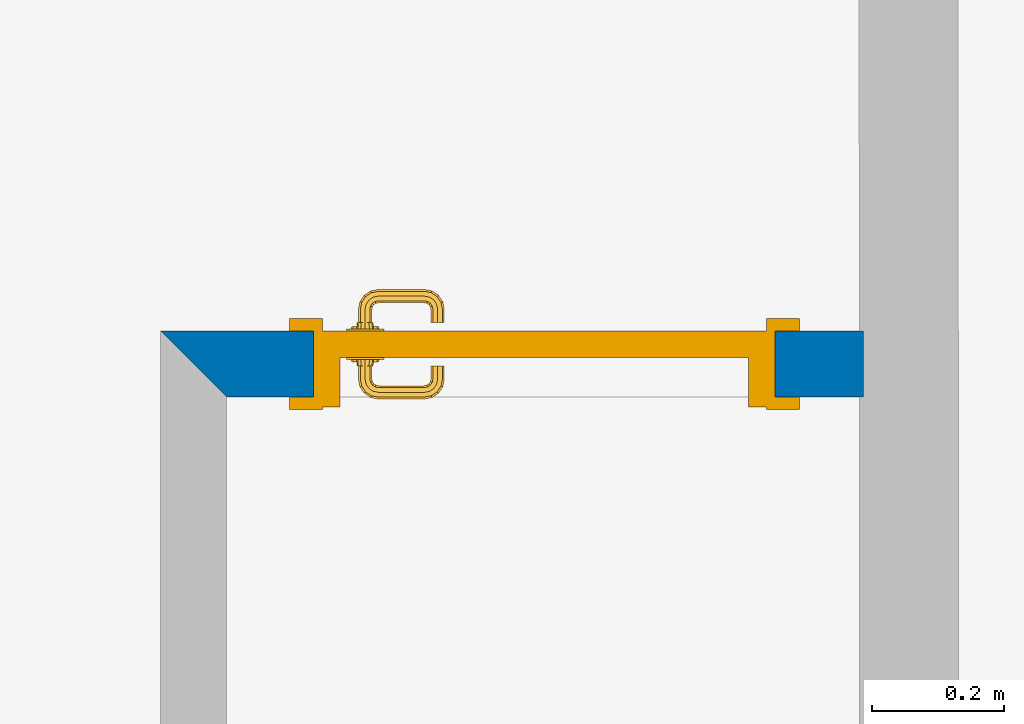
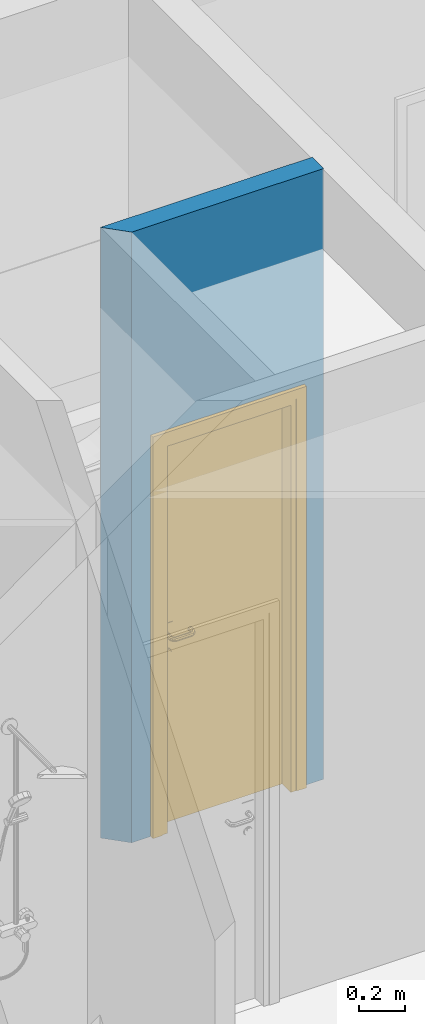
# One storey, part 24 of 194: 1 door, 1 wall, 1 opening.
"""IFC2X3 building model written with IfcOpenShell, lengths in millimetres."""

import ifcopenshell
import ifcopenshell.guid

model = None  # the IFC model being written
_history = None  # IfcOwnerHistory: only IFC2X3 demands one
_inside = {}  # id of a spatial element -> (the spatial element, [elements in it])
_under = {}  # id of a project, library or spatial element -> (it, [spatial elements below it])
_declared = {}  # id of a project -> (the project, [libraries it declares])
_typed = {}  # id of a type object -> (the type object, [elements of that type])
_made_of = {}  # id of a material, layer set ... -> (it, [elements and type objects made of it])


def new_model(schema):
    """Start an empty IFC model of exactly this schema.

    Asked for "IFC4X3", IfcOpenShell would pick the latest addendum, in which some entities
    have other attributes; the version numbers below select the first issue.
    IFC2X3 requires an IfcOwnerHistory on every rooted entity: one is made here for all.
    """
    global model, _history
    if schema == "IFC4X3":
        model = ifcopenshell.file(schema_version=(4, 3, 0, 0))
    else:
        model = ifcopenshell.file(schema=schema)
    _inside.clear()
    _under.clear()
    _declared.clear()
    _typed.clear()
    _made_of.clear()
    _history = None
    if model.schema == "IFC2X3":
        org = make("IfcOrganization", Name="unknown")
        user = make(
            "IfcPersonAndOrganization",
            ThePerson=make("IfcPerson", FamilyName="unknown"),
            TheOrganization=org,
        )
        app = make(
            "IfcApplication",
            ApplicationDeveloper=org,
            Version="unknown",
            ApplicationFullName="unknown",
            ApplicationIdentifier="unknown",
        )
        _history = make(
            "IfcOwnerHistory",
            OwningUser=user,
            OwningApplication=app,
            ChangeAction="ADDED",
            CreationDate=0,
        )
    return model


def make(cls, **values):
    """One entity of the class cls with the attributes given. An attribute that is None is left unset."""
    return model.create_entity(
        cls, **{name: value for name, value in values.items() if value is not None}
    )


def entity(cls, *values):
    """Any entity or typed value of the class cls, its attributes in the order of the schema. None: left unset."""
    e = model.create_entity(cls)
    for i, value in enumerate(values):
        if value is not None:
            e[i] = value
    return e


def rooted(cls, **values):
    """An entity with a GlobalId (a new one), such as an element, a storey or a relation."""
    return make(cls, GlobalId=ifcopenshell.guid.new(), OwnerHistory=_history, **values)


def si_unit(unit_type, name, prefix=None):
    """IfcSIUnit, for example si_unit("LENGTHUNIT", "METRE", prefix="MILLI")."""
    return make("IfcSIUnit", UnitType=unit_type, Prefix=prefix, Name=name)


def converted_unit(unit_type, name, factor, base, dimensions=None, offset=None):
    """IfcConversionBasedUnit, such as the inch: factor (a typed value) times the base unit."""
    return make(
        "IfcConversionBasedUnit"
        if offset is None
        else "IfcConversionBasedUnitWithOffset",
        ConversionOffset=offset,
        Dimensions=None
        if dimensions is None
        else entity("IfcDimensionalExponents", *dimensions),
        UnitType=unit_type,
        Name=name,
        ConversionFactor=make(
            "IfcMeasureWithUnit", ValueComponent=factor, UnitComponent=base
        ),
    )


def derived_unit(unit_type, elements):
    """IfcDerivedUnit: a product of units, each with its exponent."""
    return make(
        "IfcDerivedUnit",
        Elements=[
            make("IfcDerivedUnitElement", Unit=unit, Exponent=power)
            for unit, power in elements
        ],
        UnitType=unit_type,
    )


def money_unit(currency):
    """IfcMonetaryUnit."""
    return make("IfcMonetaryUnit", Currency=currency)


def assignment(units):
    """IfcUnitAssignment: the units of a project."""
    return None if units is None else make("IfcUnitAssignment", Units=units)


def point(xyz):
    """IfcCartesianPoint."""
    return None if xyz is None else make("IfcCartesianPoint", Coordinates=xyz)


def direction(xyz):
    """IfcDirection."""
    return None if xyz is None else make("IfcDirection", DirectionRatios=xyz)


def frame(location, z_axis=None, x_axis=None):
    """IfcAxis2Placement3D, a coordinate frame: its origin and axes. An axis left out is left unset."""
    return make(
        "IfcAxis2Placement3D",
        Location=point(location),
        Axis=direction(z_axis),
        RefDirection=direction(x_axis),
    )


def frame_2d(location, x_axis=None):
    """IfcAxis2Placement2D, a coordinate frame in the plane: its origin and x axis."""
    return make(
        "IfcAxis2Placement2D", Location=point(location), RefDirection=direction(x_axis)
    )


def origin_with_axes():
    """The frame at (0, 0, 0) with the z axis (0, 0, 1) and the x axis (1, 0, 0) written out."""
    return frame((0.0, 0.0, 0.0), z_axis=(0.0, 0.0, 1.0), x_axis=(1.0, 0.0, 0.0))


def origin_2d_with_axis():
    """The frame at (0, 0) in the plane with the x axis (1, 0) written out."""
    return frame_2d((0.0, 0.0), x_axis=(1.0, 0.0))


def place(relative_to, where):
    """IfcLocalPlacement: puts the frame where relative to a parent placement (None: the world)."""
    return make(
        "IfcLocalPlacement", PlacementRelTo=relative_to, RelativePlacement=where
    )


def context(
    kind, dimensions, precision=None, world=None, true_north=None, identifier=None
):
    """IfcGeometricRepresentationContext, for example the 3D "Model" context."""
    return make(
        "IfcGeometricRepresentationContext",
        ContextIdentifier=identifier,
        ContextType=kind,
        CoordinateSpaceDimension=dimensions,
        Precision=precision,
        WorldCoordinateSystem=world,
        TrueNorth=true_north,
    )


def subcontext(parent, identifier, kind, view, scale=None):
    """IfcGeometricRepresentationSubContext, for example "Body" below "Model"."""
    return make(
        "IfcGeometricRepresentationSubContext",
        ContextIdentifier=identifier,
        ContextType=kind,
        ParentContext=parent,
        TargetScale=scale,
        TargetView=view,
    )


def project(units=None, contexts=None):
    """IfcProject with its units and contexts."""
    return rooted(
        "IfcProject",
        Name="project",
        RepresentationContexts=contexts,
        UnitsInContext=assignment(units),
    )


def spatial(cls, under=None, at=None, **own):
    """A site, building, storey or space (cls), placed at a placement, below another one or the project."""
    s = rooted(cls, ObjectPlacement=at, **own)
    if under is not None:
        _under.setdefault(under.id(), (under, []))[1].append(s)
    return s


def polyline(points):
    """IfcPolyline through the points."""
    return make("IfcPolyline", Points=[point(p) for p in points])


def profile(cls, at=None, kind="AREA", **sizes):
    """A parametric profile (cls). Its sizes go by their IFC names, for example OverallWidth=200.0."""
    return make(cls, ProfileType=kind, Position=at, **sizes)


def rectangle(**sizes):
    """IfcRectangleProfileDef."""
    return profile("IfcRectangleProfileDef", **sizes)


def outline(outer, holes=None, kind="AREA"):
    """IfcArbitraryClosedProfileDef: a profile drawn as a closed curve; with holes, ...WithVoids."""
    if holes is None:
        return make("IfcArbitraryClosedProfileDef", ProfileType=kind, OuterCurve=outer)
    return make(
        "IfcArbitraryProfileDefWithVoids",
        ProfileType=kind,
        OuterCurve=outer,
        InnerCurves=holes,
    )


def extrude(swept, where, along, depth):
    """IfcExtrudedAreaSolid: the profile swept, set in the frame where, extruded along a direction by depth."""
    return make(
        "IfcExtrudedAreaSolid",
        SweptArea=swept,
        Position=where,
        ExtrudedDirection=direction(along),
        Depth=depth,
    )


def faces_of(points, faces, orient=None, outer=None):
    """IfcFace entities. A face is a list of loops; a loop is a list of indices into points, from 0.

    orient and outer hold one flag for each loop. By default every Orientation is true, the
    first loop of a face is its IfcFaceOuterBound and the others are IfcFaceBound.
    """
    made = []
    for i, loops in enumerate(faces):
        bounds = []
        for j, loop in enumerate(loops):
            is_outer = j == 0 if outer is None else outer[i][j]
            bounds.append(
                make(
                    "IfcFaceOuterBound" if is_outer else "IfcFaceBound",
                    Bound=make("IfcPolyLoop", Polygon=[points[k] for k in loop]),
                    Orientation=True if orient is None else orient[i][j],
                )
            )
        made.append(make("IfcFace", Bounds=bounds))
    return made


def open_shell(faces, orient=None, outer=None):
    """The faces of one IfcOpenShell. surface_model builds it on its shared points."""
    return ("IfcOpenShell", faces, orient, outer)


def faceted_brep(points, faces, orient=None, outer=None, voids=None):
    """IfcFacetedBrep: a solid bounded by flat faces; with voids (closed shells), ...WithVoids."""
    shared = [point(p) for p in points]
    hull = make("IfcClosedShell", CfsFaces=faces_of(shared, faces, orient, outer))
    if voids is None:
        return make("IfcFacetedBrep", Outer=hull)
    return make(
        "IfcFacetedBrepWithVoids",
        Outer=hull,
        Voids=[
            make(cls, CfsFaces=faces_of(shared, fs, o, b)) for cls, fs, o, b in voids
        ],
    )


def surface_model(cls, points, shells):
    """IfcFaceBasedSurfaceModel or IfcShellBasedSurfaceModel (cls): surfaces that need not close."""
    shared = [point(p) for p in points]
    made = [make(c, CfsFaces=faces_of(shared, fs, o, b)) for c, fs, o, b in shells]
    if cls == "IfcFaceBasedSurfaceModel":
        return make(cls, FbsmFaces=made)
    return make(cls, SbsmBoundary=made)


def shape(context_of_items, identifier, shape_type, items):
    """IfcShapeRepresentation: the items that make up one representation, for example the "Body"."""
    return make(
        "IfcShapeRepresentation",
        ContextOfItems=context_of_items,
        RepresentationIdentifier=identifier,
        RepresentationType=shape_type,
        Items=items,
    )


def source(mapping_origin, context_of_items, identifier, shape_type, items):
    """IfcRepresentationMap: a shape defined once, which mapped items show again and again."""
    return make(
        "IfcRepresentationMap",
        MappingOrigin=mapping_origin,
        MappedRepresentation=shape(context_of_items, identifier, shape_type, items),
    )


def transform(
    local_origin,
    x_axis=None,
    y_axis=None,
    z_axis=None,
    scale=None,
    scale2=None,
    scale3=None,
    uniform=True,
):
    """IfcCartesianTransformationOperator3D, or its non-uniform kind. x_axis, y_axis, z_axis: its Axis1, 2, 3."""
    if uniform:
        return make(
            "IfcCartesianTransformationOperator3D",
            Axis1=direction(x_axis),
            Axis2=direction(y_axis),
            LocalOrigin=point(local_origin),
            Scale=scale,
            Axis3=direction(z_axis),
        )
    return make(
        "IfcCartesianTransformationOperator3DnonUniform",
        Axis1=direction(x_axis),
        Axis2=direction(y_axis),
        LocalOrigin=point(local_origin),
        Scale=scale,
        Axis3=direction(z_axis),
        Scale2=scale2,
        Scale3=scale3,
    )


def mapped(mapping_source, mapping_target):
    """IfcMappedItem: shows the shape of a source again, moved by a transform."""
    return make(
        "IfcMappedItem", MappingSource=mapping_source, MappingTarget=mapping_target
    )


def material(Name=None, Category=None):
    """IfcMaterial."""
    return make("IfcMaterial", Name=Name, Category=Category)


def layer(
    of_material, thickness, ventilated=None, Name=None, Category=None, Priority=None
):
    """IfcMaterialLayer: one layer of a wall or slab, of a material (None: an air gap)."""
    return make(
        "IfcMaterialLayer",
        Material=of_material,
        LayerThickness=thickness,
        IsVentilated=ventilated,
        Name=Name,
        Category=Category,
        Priority=Priority,
    )


def layer_set(layers, Name=None):
    """IfcMaterialLayerSet."""
    return make("IfcMaterialLayerSet", MaterialLayers=layers, LayerSetName=Name)


def layer_usage(for_layer_set, set_direction, sense, offset, extent=None):
    """IfcMaterialLayerSetUsage: how a layer set lies in its element."""
    return make(
        "IfcMaterialLayerSetUsage",
        ForLayerSet=for_layer_set,
        LayerSetDirection=set_direction,
        DirectionSense=sense,
        OffsetFromReferenceLine=offset,
        ReferenceExtent=extent,
    )


def made_of(thing, what):
    """Note that an element or type object is made of a material, layer set ...; save() writes the relation."""
    if what is not None:
        _made_of.setdefault(what.id(), (what, []))[1].append(thing)
    return thing


def type_object(cls, material=None, **own):
    """A type object (cls), such as IfcWallType, which elements share."""
    return made_of(rooted(cls, **own), material)


def element(
    cls,
    number,
    at=None,
    inside=None,
    cuts=None,
    type_object=None,
    material=None,
    context=None,
    identifier="Body",
    shape_type=None,
    held_by="IfcProductDefinitionShape",
    body=None,
    shapes=None,
    **own,
):
    """One element of the class cls, such as IfcWall. Its Tag is "e" and its number.

    at: its placement. inside: the storey or other place that contains it. cuts: it is an
    opening in that element (IfcRelVoidsElement). A single representation is given by context,
    identifier, shape_type and body (its items); several are given by shapes. held_by: the class
    of the entity that holds the representations. save() writes the other relations.
    """
    e = rooted(cls, Tag="e%d" % number, ObjectPlacement=at, **own)
    if body is not None:
        shapes = [shape(context, identifier, shape_type, body)]
    if shapes is not None:
        e.Representation = make(held_by, Representations=shapes)
    if inside is not None:
        _inside.setdefault(inside.id(), (inside, []))[1].append(e)
    if cuts is not None:
        rooted(
            "IfcRelVoidsElement", RelatingBuildingElement=cuts, RelatedOpeningElement=e
        )
    if type_object is not None:
        _typed.setdefault(type_object.id(), (type_object, []))[1].append(e)
    return made_of(e, material)


def fill(opening, filler):
    """IfcRelFillsElement: the door or window that sits in an opening."""
    return rooted(
        "IfcRelFillsElement",
        RelatingOpeningElement=opening,
        RelatedBuildingElement=filler,
    )


def aggregate(whole, parts):
    """IfcRelAggregates: a whole, such as a stair, and the parts it consists of."""
    return rooted("IfcRelAggregates", RelatingObject=whole, RelatedObjects=parts)


def save(model, path):
    """Write the relations noted so far, then the file.

    IfcRelAggregates (storeys below a building ...), IfcRelContainedInSpatialStructure (elements
    in a storey), IfcRelDefinesByType, IfcRelAssociatesMaterial and IfcRelDeclares: one each for
    every whole, place, type object, material and project.
    """
    for whole, parts in _under.values():
        aggregate(whole, parts)
    for where, things in _inside.values():
        rooted(
            "IfcRelContainedInSpatialStructure",
            RelatedElements=things,
            RelatingStructure=where,
        )
    for kind, things in _typed.values():
        rooted("IfcRelDefinesByType", RelatedObjects=things, RelatingType=kind)
    for what, things in _made_of.values():
        rooted("IfcRelAssociatesMaterial", RelatedObjects=things, RelatingMaterial=what)
    for by, libraries in _declared.values():
        rooted("IfcRelDeclares", RelatingContext=by, RelatedDefinitions=libraries)
    model.write(path)


model = new_model("IFC2X3")

# Units and contexts
model_context = context("Model", 3, precision=1e-05, world=origin_with_axes(), true_north=direction((0.0, 1.0)))
body_context = subcontext(model_context, "Body", "Model", "MODEL_VIEW")
ifc_project = project(units=[si_unit("LENGTHUNIT", "METRE", prefix="MILLI"), si_unit("AREAUNIT", "SQUARE_METRE"), si_unit("VOLUMEUNIT", "CUBIC_METRE"), converted_unit("PLANEANGLEUNIT", "DEGREE", entity("IfcPlaneAngleMeasure", 0.0174532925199), si_unit("PLANEANGLEUNIT", "RADIAN"), dimensions=[0, 0, 0, 0, 0, 0, 0]), si_unit("SOLIDANGLEUNIT", "STERADIAN"), money_unit("EUR"), converted_unit("TIMEUNIT", "Year", entity("IfcTimeMeasure", 31556926.0), si_unit("TIMEUNIT", "SECOND"), dimensions=[0, 0, 1, 0, 0, 0, 0]), si_unit("MASSUNIT", "GRAM", prefix="KILO"), si_unit("THERMODYNAMICTEMPERATUREUNIT", "DEGREE_CELSIUS"), si_unit("LUMINOUSINTENSITYUNIT", "LUMEN"), si_unit("ENERGYUNIT", "JOULE", prefix="MEGA"), derived_unit("THERMALCONDUCTANCEUNIT", [(si_unit("POWERUNIT", "WATT"), 1), (si_unit("LENGTHUNIT", "METRE"), -1), (si_unit("THERMODYNAMICTEMPERATUREUNIT", "KELVIN"), -1)]), derived_unit("SPECIFICHEATCAPACITYUNIT", [(si_unit("ENERGYUNIT", "JOULE"), 1), (si_unit("MASSUNIT", "GRAM", prefix="KILO"), -1), (si_unit("THERMODYNAMICTEMPERATUREUNIT", "KELVIN"), -1)]), derived_unit("MASSDENSITYUNIT", [(si_unit("MASSUNIT", "GRAM", prefix="KILO"), 1), (si_unit("VOLUMEUNIT", "CUBIC_METRE"), -1)])], contexts=[model_context])

# Site, building, storey
site_placement = place(None, origin_with_axes())
site = spatial("IfcSite", under=ifc_project, at=site_placement, Name="Site", CompositionType="ELEMENT")
building_placement = place(site_placement, origin_with_axes())
building = spatial("IfcBuilding", under=site, at=building_placement, Name="Building", CompositionType="ELEMENT")
storey_placement = place(building_placement, frame((0.0, 0.0, 3000.0), z_axis=(0.0, 0.0, 1.0), x_axis=(1.0, 0.0, 0.0)))
storey = spatial("IfcBuildingStorey", under=building, at=storey_placement, Name="2 KORRUS", CompositionType="ELEMENT", Elevation=3000.0)

# Wall, opening, door
ifc_material = material(Name="Kivi -Ol.Olev Konstruktsioon")
ifc_layer = layer(ifc_material, 100.0, ventilated="UNKNOWN")
ifc_layer_set = layer_set([ifc_layer], Name="ol.olev ss 100")
ifc_layer_usage = layer_usage(ifc_layer_set, "AXIS2", "POSITIVE", -100.0)
wall_type = type_object("IfcWallType", Name="SW - 022", PredefinedType="NOTDEFINED")
wall_placement = place(storey_placement, frame((74943.5450099, 38994.6064083, 0.0), z_axis=(0.0, 0.0, 1.0), x_axis=(1.0, 0.0, 0.0)))
wall = element("IfcWallStandardCase", 1, at=wall_placement, inside=storey, type_object=wall_type, material=ifc_layer_usage, Name="ol.olev ss 100", context=body_context, shape_type="SweptSolid", body=[
    extrude(outline(polyline([(100.0, -100.0), (1066.53179752, -100.0), (1066.53179752, 0.0), (0.0, 0.0), (100.0, -100.0)])), origin_with_axes(), (0.0, 0.0, 1.0), 3250.0),
])
opening_placement = place(wall_placement, frame((582.395662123, 0.0, 0.0), z_axis=(0.0, 0.0, 1.0), x_axis=(1.0, 0.0, 0.0)))
opening = element("IfcOpeningElement", 2, at=opening_placement, cuts=wall, Name="Siseuks * Door 22", context=body_context, shape_type="SweptSolid", body=[
    extrude(rectangle(XDim=699.999999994, YDim=2100.0, at=origin_2d_with_axis()), frame((0.0, -100.0, 1050.0), z_axis=(0.0, 1.0, 0.0), x_axis=(1.0, 0.0, 0.0)), (0.0, 0.0, 1.0), 300.000000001),
    extrude(rectangle(XDim=773.999999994, YDim=2137.0, at=origin_2d_with_axis()), frame((0.0, -100.0, 1068.5), z_axis=(0.0, 1.0, 0.0), x_axis=(1.0, 0.0, 0.0)), (0.0, 0.0, -1.0), 100.0),
    extrude(rectangle(XDim=773.999999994, YDim=2137.0, at=origin_2d_with_axis()), frame((0.0, 0.0, 1068.5), z_axis=(0.0, -1.0, 0.0), x_axis=(1.0, 0.0, 0.0)), (0.0, 0.0, -1.0), 100.0),
])
door_style = type_object("IfcDoorStyle", Name="SU-B233B   700×2\xa0100", ConstructionType="NOTDEFINED", OperationType="SINGLE_SWING_RIGHT", ParameterTakesPrecedence=False, Sizeable=False)
shared_shape = source(origin_with_axes(), body_context, "Body", "SurfaceModel", [
    faceted_brep([(-386.999999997, -119.0, 0.0), (-386.999999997, -100.0, 0.0), (-336.999999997, -100.0, 0.0), (-336.999999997, -119.0, 0.0), (-386.999999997, -119.0, 2137.0), (-386.999999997, -100.0, 2137.0), (-336.999999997, -100.0, 2087.0), (-336.999999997, -119.0, 2087.0)], [[[0, 1, 2, 3]], [[4, 5, 1, 0]], [[1, 5, 6, 2]], [[3, 2, 6, 7]], [[0, 3, 7, 4]], [[7, 6, 5, 4]]]),
    faceted_brep([(386.999999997, -119.0, 2137.0), (386.999999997, -100.0, 2137.0), (336.999999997, -100.0, 2087.0), (336.999999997, -119.0, 2087.0), (386.999999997, -119.0, 0.0), (386.999999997, -100.0, 0.0), (336.999999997, -100.0, 0.0), (336.999999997, -119.0, 0.0)], [[[0, 1, 2, 3]], [[4, 5, 1, 0]], [[1, 5, 6, 2]], [[3, 2, 6, 7]], [[0, 3, 7, 4]], [[7, 6, 5, 4]]]),
    faceted_brep([(-386.999999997, -119.0, 2137.0), (-386.999999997, -100.0, 2137.0), (-336.999999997, -100.0, 2087.0), (-336.999999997, -119.0, 2087.0), (386.999999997, -119.0, 2137.0), (386.999999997, -100.0, 2137.0), (336.999999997, -100.0, 2087.0), (336.999999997, -119.0, 2087.0)], [[[0, 1, 2, 3]], [[4, 5, 1, 0]], [[1, 5, 6, 2]], [[3, 2, 6, 7]], [[0, 3, 7, 4]], [[7, 6, 5, 4]]]),
    faceted_brep([(-386.999999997, 19.0, 0.0), (-336.999999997, 19.0, 0.0), (-336.999999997, 0.0, 0.0), (-386.999999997, 0.0, 0.0), (-386.999999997, 19.0, 2137.0), (-336.999999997, 19.0, 2087.0), (-336.999999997, 0.0, 2087.0), (-386.999999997, 0.0, 2137.0)], [[[0, 1, 2, 3]], [[0, 4, 5, 1]], [[1, 5, 6, 2]], [[3, 2, 6, 7]], [[4, 0, 3, 7]], [[5, 4, 7, 6]]]),
    faceted_brep([(386.999999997, 19.0, 2137.0), (336.999999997, 19.0, 2087.0), (336.999999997, 0.0, 2087.0), (386.999999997, 0.0, 2137.0), (386.999999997, 19.0, 0.0), (336.999999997, 19.0, 0.0), (336.999999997, 0.0, 0.0), (386.999999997, 0.0, 0.0)], [[[0, 1, 2, 3]], [[0, 4, 5, 1]], [[1, 5, 6, 2]], [[3, 2, 6, 7]], [[4, 0, 3, 7]], [[5, 4, 7, 6]]]),
    faceted_brep([(-386.999999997, 19.0, 2137.0), (-336.999999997, 19.0, 2087.0), (-336.999999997, 0.0, 2087.0), (-386.999999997, 0.0, 2137.0), (386.999999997, 19.0, 2137.0), (336.999999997, 19.0, 2087.0), (336.999999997, 0.0, 2087.0), (386.999999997, 0.0, 2137.0)], [[[0, 1, 2, 3]], [[0, 4, 5, 1]], [[1, 5, 6, 2]], [[3, 2, 6, 7]], [[4, 0, 3, 7]], [[5, 4, 7, 6]]]),
    faceted_brep([(-309.999999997, -40.0, 0.0), (-309.999999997, -40.0, 2060.0), (-309.999999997, -115.0, 2060.0), (-309.999999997, -115.0, 0.0), (-321.999999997, -40.0, 2060.0), (-321.999999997, -40.0, 0.0), (-321.999999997, 0.0, 2060.0), (-349.999999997, 0.0, 2060.0), (-349.999999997, -115.0, 2060.0), (-349.999999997, -115.0, 0.0), (-349.999999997, 0.0, 0.0), (-321.999999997, 0.0, 0.0)], [[[0, 1, 2, 3]], [[4, 1, 0, 5]], [[4, 6, 7, 8, 2, 1]], [[3, 2, 8, 9]], [[5, 0, 3, 9, 10, 11]], [[6, 4, 5, 11]], [[6, 11, 10, 7]], [[10, 9, 8, 7]]]),
    faceted_brep([(321.999999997, -40.0, 2060.0), (309.999999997, -40.0, 2060.0), (309.999999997, -115.0, 2060.0), (349.999999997, -115.0, 2060.0), (349.999999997, 0.0, 2060.0), (321.999999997, 0.0, 2060.0), (321.999999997, -40.0, 0.0), (309.999999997, -40.0, 0.0), (309.999999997, -115.0, 0.0), (349.999999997, -115.0, 0.0), (349.999999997, 0.0, 0.0), (321.999999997, 0.0, 0.0)], [[[0, 1, 2, 3, 4, 5]], [[1, 0, 6, 7]], [[1, 7, 8, 2]], [[3, 2, 8, 9]], [[4, 3, 9, 10]], [[11, 5, 4, 10]], [[0, 5, 11, 6]], [[6, 11, 10, 9, 8, 7]]]),
    faceted_brep([(-321.999999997, 0.0, 2072.0), (-321.999999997, 0.0, 2060.0), (-349.999999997, 0.0, 2060.0), (-349.999999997, 0.0, 2100.0), (349.999999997, 0.0, 2100.0), (349.999999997, 0.0, 2060.0), (321.999999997, 0.0, 2060.0), (321.999999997, 0.0, 2072.0), (-321.999999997, -40.0, 2072.0), (-321.999999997, -40.0, 2060.0), (-309.999999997, -40.0, 2060.0), (-309.999999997, -115.0, 2060.0), (-349.999999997, -115.0, 2060.0), (-349.999999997, -115.0, 2100.0), (349.999999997, -115.0, 2100.0), (349.999999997, -115.0, 2060.0), (321.999999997, -40.0, 2060.0), (309.999999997, -115.0, 2060.0), (309.999999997, -40.0, 2060.0), (321.999999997, -40.0, 2072.0)], [[[0, 1, 2, 3, 4, 5, 6, 7]], [[1, 0, 8, 9]], [[9, 10, 11, 12, 2, 1]], [[2, 12, 13, 3]], [[3, 13, 14, 4]], [[4, 14, 15, 5]], [[16, 6, 5, 15, 17, 18]], [[7, 6, 16, 19]], [[0, 7, 19, 8]], [[16, 18, 10, 9, 8, 19]], [[10, 18, 17, 11]], [[17, 15, 14, 13, 12, 11]]]),
    faceted_brep([(-300.499999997, -40.0, 1060.0), (-300.499999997, -43.0, 1060.0), (-243.499999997, -43.0, 1060.0), (-243.499999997, -40.0, 1060.0), (-300.499999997, -40.0, 870.0), (-300.499999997, -43.0, 870.0), (-243.499999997, -43.0, 870.0), (-243.499999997, -40.0, 870.0)], [[[0, 1, 2, 3]], [[4, 5, 1, 0]], [[1, 5, 6, 2]], [[3, 2, 6, 7]], [[0, 3, 7, 4]], [[7, 6, 5, 4]]]),
    surface_model("IfcShellBasedSurfaceModel", [(-261.999999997, -53.0, 1000.0), (-261.999999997, -72.0150859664, 1000.0), (-264.928932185, -72.303560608, 992.928932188), (-264.928932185, -53.0, 992.928932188), (-264.928932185, -53.0, 1007.07106781), (-264.928932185, -72.303560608, 1007.07106781), (-261.057796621, -76.751862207, 1000.0), (-263.816790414, -77.8946748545, 992.928932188), (-271.999999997, -73.0, 990.0), (-271.999999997, -53.0, 990.0), (-271.999999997, -53.0, 1010.0), (-271.999999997, -73.0, 1010.0), (-263.816790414, -77.8946748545, 1007.07106781), (-258.932537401, -79.9325374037, 1000.0), (-261.04417983, -82.0441798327, 992.928932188), (-270.477590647, -80.6536686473, 990.0), (-279.071067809, -73.696439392, 992.928932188), (-279.071067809, -53.0, 992.928932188), (-279.071067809, -53.0, 1007.07106781), (-279.071067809, -73.696439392, 1007.07106781), (-270.477590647, -80.6536686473, 1010.0), (-261.04417983, -82.0441798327, 1007.07106781), (-255.751862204, -82.0577966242, 1000.0), (-256.894674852, -84.8167904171, 992.928932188), (-266.142135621, -87.1421356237, 990.0), (-277.13839088, -83.4126624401, 992.928932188), (-281.999999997, -73.9849140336, 1000.0), (-281.999999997, -53.0, 1000.0), (-277.13839088, -83.4126624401, 1007.07106781), (-266.142135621, -87.1421356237, 1010.0), (-256.894674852, -84.8167904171, 1007.07106781), (-251.015085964, -83.0, 1000.0), (-251.303560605, -85.9289321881, 992.928932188), (-259.653668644, -91.4775906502, 990.0), (-271.240091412, -92.2400914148, 992.928932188), (-279.897384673, -84.5554750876, 1000.0), (-271.240091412, -92.2400914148, 1007.07106781), (-259.653668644, -91.4775906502, 1010.0), (-251.303560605, -85.9289321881, 1007.07106781), (-182.984914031, -83.0, 1000.0), (-182.696439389, -85.9289321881, 992.928932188), (-251.999999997, -93.0, 990.0), (-262.412662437, -98.1383908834, 992.928932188), (-273.351733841, -94.3517338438, 1000.0), (-262.412662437, -98.1383908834, 1007.07106781), (-251.999999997, -93.0, 1010.0), (-182.696439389, -85.9289321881, 1007.07106781), (-178.24813779, -82.0577966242, 1000.0), (-177.105325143, -84.8167904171, 992.928932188), (-181.999999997, -93.0, 990.0), (-252.696439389, -100.071067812, 992.928932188), (-263.555475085, -100.897384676, 1000.0), (-252.696439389, -100.071067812, 1007.07106781), (-181.999999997, -93.0, 1010.0), (-177.105325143, -84.8167904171, 1007.07106781), (-175.067462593, -79.9325374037, 1000.0), (-172.955820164, -82.0441798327, 992.928932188), (-174.34633135, -91.4775906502, 990.0), (-181.303560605, -100.071067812, 992.928932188), (-252.984914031, -103.0, 1000.0), (-181.303560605, -100.071067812, 1007.07106781), (-174.34633135, -91.4775906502, 1010.0), (-172.955820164, -82.0441798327, 1007.07106781), (-172.942203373, -76.751862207, 1000.0), (-170.18320958, -77.8946748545, 992.928932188), (-167.857864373, -87.1421356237, 990.0), (-171.587337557, -98.1383908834, 992.928932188), (-181.015085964, -103.0, 1000.0), (-171.587337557, -98.1383908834, 1007.07106781), (-167.857864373, -87.1421356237, 1010.0), (-170.18320958, -77.8946748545, 1007.07106781), (-171.999999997, -72.0150859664, 1000.0), (-169.071067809, -72.303560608, 992.928932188), (-163.522409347, -80.6536686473, 990.0), (-162.759908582, -92.2400914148, 992.928932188), (-170.444524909, -100.897384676, 1000.0), (-162.759908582, -92.2400914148, 1007.07106781), (-163.522409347, -80.6536686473, 1010.0), (-169.071067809, -72.303560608, 1007.07106781), (-171.999999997, -53.0, 1000.0), (-169.071067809, -53.0, 992.928932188), (-161.999999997, -73.0, 990.0), (-156.861609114, -83.4126624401, 992.928932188), (-160.648266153, -94.3517338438, 1000.0), (-156.861609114, -83.4126624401, 1007.07106781), (-161.999999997, -73.0, 1010.0), (-169.071067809, -53.0, 1007.07106781), (-161.999999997, -53.0, 1010.0), (-154.928932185, -53.0, 1007.07106781), (-151.999999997, -53.0, 1000.0), (-154.928932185, -53.0, 992.928932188), (-161.999999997, -53.0, 990.0), (-154.928932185, -73.696439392, 992.928932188), (-154.102615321, -84.5554750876, 1000.0), (-154.928932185, -73.696439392, 1007.07106781), (-151.999999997, -73.9849140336, 1000.0)], [open_shell([[[0, 1, 2, 3]], [[4, 5, 1, 0]], [[1, 6, 7, 2]], [[3, 2, 8, 9]], [[10, 11, 5, 4]], [[5, 12, 6, 1]], [[6, 13, 14, 7]], [[2, 7, 15, 8]], [[9, 8, 16, 17]], [[18, 19, 11, 10]], [[11, 20, 12, 5]], [[12, 21, 13, 6]], [[13, 22, 23, 14]], [[7, 14, 24, 15]], [[8, 15, 25, 16]], [[17, 16, 26, 27]], [[27, 26, 19, 18]], [[19, 28, 20, 11]], [[20, 29, 21, 12]], [[21, 30, 22, 13]], [[22, 31, 32, 23]], [[14, 23, 33, 24]], [[15, 24, 34, 25]], [[16, 25, 35, 26]], [[26, 35, 28, 19]], [[28, 36, 29, 20]], [[29, 37, 30, 21]], [[30, 38, 31, 22]], [[31, 39, 40, 32]], [[23, 32, 41, 33]], [[24, 33, 42, 34]], [[25, 34, 43, 35]], [[35, 43, 36, 28]], [[36, 44, 37, 29]], [[37, 45, 38, 30]], [[38, 46, 39, 31]], [[39, 47, 48, 40]], [[32, 40, 49, 41]], [[33, 41, 50, 42]], [[34, 42, 51, 43]], [[43, 51, 44, 36]], [[44, 52, 45, 37]], [[45, 53, 46, 38]], [[46, 54, 47, 39]], [[47, 55, 56, 48]], [[40, 48, 57, 49]], [[41, 49, 58, 50]], [[42, 50, 59, 51]], [[51, 59, 52, 44]], [[52, 60, 53, 45]], [[53, 61, 54, 46]], [[54, 62, 55, 47]], [[55, 63, 64, 56]], [[48, 56, 65, 57]], [[49, 57, 66, 58]], [[50, 58, 67, 59]], [[59, 67, 60, 52]], [[60, 68, 61, 53]], [[61, 69, 62, 54]], [[62, 70, 63, 55]], [[63, 71, 72, 64]], [[56, 64, 73, 65]], [[57, 65, 74, 66]], [[58, 66, 75, 67]], [[67, 75, 68, 60]], [[68, 76, 69, 61]], [[69, 77, 70, 62]], [[70, 78, 71, 63]], [[71, 79, 80, 72]], [[64, 72, 81, 73]], [[65, 73, 82, 74]], [[66, 74, 83, 75]], [[75, 83, 76, 68]], [[76, 84, 77, 69]], [[77, 85, 78, 70]], [[78, 86, 79, 71]], [[79, 86, 87, 88, 89, 90, 91, 80]], [[72, 80, 91, 81]], [[73, 81, 92, 82]], [[74, 82, 93, 83]], [[83, 93, 84, 76]], [[84, 94, 85, 77]], [[85, 87, 86, 78]], [[94, 88, 87, 85]], [[95, 89, 88, 94]], [[92, 90, 89, 95]], [[81, 91, 90, 92]], [[82, 92, 95, 93]], [[93, 95, 94, 84]]])]),
    faceted_brep([(-261.607695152, -53.0, 994.0), (-260.741669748, -43.0, 993.5), (-258.999999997, -43.0, 1000.0), (-259.999999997, -53.0, 1000.0), (-265.999999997, -53.0, 989.607695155), (-265.499999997, -43.0, 988.741669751), (-271.999999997, -43.0, 987.0), (-278.499999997, -43.0, 988.741669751), (-283.258330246, -43.0, 993.5), (-284.999999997, -43.0, 1000.0), (-283.258330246, -43.0, 1006.5), (-278.499999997, -43.0, 1011.25833025), (-271.999999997, -43.0, 1013.0), (-265.499999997, -43.0, 1011.25833025), (-260.741669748, -43.0, 1006.5), (-261.607695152, -53.0, 1006.0), (-265.999999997, -53.0, 1010.39230485), (-271.999999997, -53.0, 1012.0), (-277.999999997, -53.0, 1010.39230485), (-282.392304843, -53.0, 1006.0), (-283.999999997, -53.0, 1000.0), (-282.392304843, -53.0, 994.0), (-277.999999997, -53.0, 989.607695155), (-271.999999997, -53.0, 988.0)], [[[0, 1, 2, 3]], [[4, 5, 1, 0]], [[2, 1, 5, 6, 7, 8, 9, 10, 11, 12, 13, 14]], [[3, 2, 14, 15]], [[3, 15, 16, 17, 18, 19, 20, 21, 22, 23, 4, 0]], [[23, 6, 5, 4]], [[22, 7, 6, 23]], [[21, 8, 7, 22]], [[20, 9, 8, 21]], [[19, 10, 9, 20]], [[18, 11, 10, 19]], [[17, 12, 11, 18]], [[16, 13, 12, 17]], [[15, 14, 13, 16]]]),
    faceted_brep([(-254.679491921, -47.0, 895.0), (-252.947441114, -43.0, 894.0), (-249.999999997, -43.0, 905.0), (-251.999999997, -47.0, 905.0), (-261.999999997, -47.0, 887.679491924), (-260.999999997, -43.0, 885.947441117), (-271.999999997, -43.0, 883.0), (-282.999999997, -43.0, 885.947441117), (-291.05255888, -43.0, 894.0), (-293.999999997, -43.0, 905.0), (-291.05255888, -43.0, 916.0), (-282.999999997, -43.0, 924.052558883), (-271.999999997, -43.0, 927.0), (-260.999999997, -43.0, 924.052558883), (-252.947441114, -43.0, 916.0), (-254.679491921, -47.0, 915.0), (-261.999999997, -47.0, 922.320508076), (-271.999999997, -47.0, 925.0), (-281.999999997, -47.0, 922.320508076), (-289.320508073, -47.0, 915.0), (-291.999999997, -47.0, 905.0), (-289.320508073, -47.0, 895.0), (-281.999999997, -47.0, 887.679491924), (-271.999999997, -47.0, 885.0)], [[[0, 1, 2, 3]], [[4, 5, 1, 0]], [[2, 1, 5, 6, 7, 8, 9, 10, 11, 12, 13, 14]], [[3, 2, 14, 15]], [[3, 15, 16, 17, 18, 19, 20, 21, 22, 23, 4, 0]], [[23, 6, 5, 4]], [[22, 7, 6, 23]], [[21, 8, 7, 22]], [[20, 9, 8, 21]], [[19, 10, 9, 20]], [[18, 11, 10, 19]], [[17, 12, 11, 18]], [[16, 13, 12, 17]], [[15, 14, 13, 16]]]),
    faceted_brep([(-267.050252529, -49.0, 909.050252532), (-266.343145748, -47.0, 908.343145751), (-263.999999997, -47.0, 914.0), (-264.999999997, -49.0, 914.0), (-271.999999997, -49.0, 907.0), (-271.999999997, -47.0, 906.0), (-277.656854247, -47.0, 908.343145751), (-279.999999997, -47.0, 914.0), (-277.656854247, -47.0, 919.656854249), (-271.999999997, -47.0, 922.0), (-266.343145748, -47.0, 919.656854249), (-267.050252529, -49.0, 918.949747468), (-271.999999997, -49.0, 921.0), (-276.949747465, -49.0, 918.949747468), (-278.999999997, -49.0, 914.0), (-276.949747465, -49.0, 909.050252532)], [[[0, 1, 2, 3]], [[4, 5, 1, 0]], [[2, 1, 5, 6, 7, 8, 9, 10]], [[3, 2, 10, 11]], [[3, 11, 12, 13, 14, 15, 4, 0]], [[15, 6, 5, 4]], [[14, 7, 6, 15]], [[13, 8, 7, 14]], [[12, 9, 8, 13]], [[11, 10, 9, 12]]]),
    faceted_brep([(-300.499999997, 0.0, 1060.0), (-243.499999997, 0.0, 1060.0), (-243.499999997, 3.0, 1060.0), (-300.499999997, 3.0, 1060.0), (-300.499999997, 0.0, 870.0), (-243.499999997, 0.0, 870.0), (-243.499999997, 3.0, 870.0), (-300.499999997, 3.0, 870.0)], [[[0, 1, 2, 3]], [[0, 4, 5, 1]], [[1, 5, 6, 2]], [[3, 2, 6, 7]], [[4, 0, 3, 7]], [[5, 4, 7, 6]]]),
    surface_model("IfcShellBasedSurfaceModel", [(-261.999999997, 13.0, 1000.0), (-264.928932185, 13.0, 992.928932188), (-264.928932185, 32.303560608, 992.928932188), (-261.999999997, 32.0150859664, 1000.0), (-271.999999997, 13.0, 990.0), (-271.999999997, 33.0, 990.0), (-263.816790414, 37.8946748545, 992.928932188), (-261.057796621, 36.751862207, 1000.0), (-264.928932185, 13.0, 1007.07106781), (-264.928932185, 32.303560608, 1007.07106781), (-279.071067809, 13.0, 992.928932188), (-279.071067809, 33.696439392, 992.928932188), (-270.477590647, 40.6536686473, 990.0), (-261.04417983, 42.0441798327, 992.928932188), (-258.932537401, 39.9325374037, 1000.0), (-263.816790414, 37.8946748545, 1007.07106781), (-271.999999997, 13.0, 1010.0), (-271.999999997, 33.0, 1010.0), (-281.999999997, 13.0, 1000.0), (-281.999999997, 33.9849140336, 1000.0), (-277.13839088, 43.4126624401, 992.928932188), (-266.142135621, 47.1421356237, 990.0), (-256.894674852, 44.8167904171, 992.928932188), (-255.751862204, 42.0577966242, 1000.0), (-261.04417983, 42.0441798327, 1007.07106781), (-270.477590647, 40.6536686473, 1010.0), (-279.071067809, 13.0, 1007.07106781), (-279.071067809, 33.696439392, 1007.07106781), (-279.897384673, 44.5554750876, 1000.0), (-271.240091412, 52.2400914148, 992.928932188), (-259.653668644, 51.4775906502, 990.0), (-251.303560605, 45.9289321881, 992.928932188), (-251.015085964, 43.0, 1000.0), (-256.894674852, 44.8167904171, 1007.07106781), (-266.142135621, 47.1421356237, 1010.0), (-277.13839088, 43.4126624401, 1007.07106781), (-273.351733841, 54.3517338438, 1000.0), (-262.412662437, 58.1383908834, 992.928932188), (-251.999999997, 53.0, 990.0), (-182.696439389, 45.9289321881, 992.928932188), (-182.984914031, 43.0, 1000.0), (-251.303560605, 45.9289321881, 1007.07106781), (-259.653668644, 51.4775906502, 1010.0), (-271.240091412, 52.2400914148, 1007.07106781), (-263.555475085, 60.8973846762, 1000.0), (-252.696439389, 60.0710678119, 992.928932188), (-181.999999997, 53.0, 990.0), (-177.105325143, 44.8167904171, 992.928932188), (-178.24813779, 42.0577966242, 1000.0), (-182.696439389, 45.9289321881, 1007.07106781), (-251.999999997, 53.0, 1010.0), (-262.412662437, 58.1383908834, 1007.07106781), (-252.984914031, 63.0, 1000.0), (-181.303560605, 60.0710678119, 992.928932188), (-174.34633135, 51.4775906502, 990.0), (-172.955820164, 42.0441798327, 992.928932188), (-175.067462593, 39.9325374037, 1000.0), (-177.105325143, 44.8167904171, 1007.07106781), (-181.999999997, 53.0, 1010.0), (-252.696439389, 60.0710678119, 1007.07106781), (-181.015085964, 63.0, 1000.0), (-171.587337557, 58.1383908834, 992.928932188), (-167.857864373, 47.1421356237, 990.0), (-170.18320958, 37.8946748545, 992.928932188), (-172.942203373, 36.751862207, 1000.0), (-172.955820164, 42.0441798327, 1007.07106781), (-174.34633135, 51.4775906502, 1010.0), (-181.303560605, 60.0710678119, 1007.07106781), (-170.444524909, 60.8973846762, 1000.0), (-162.759908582, 52.2400914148, 992.928932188), (-163.522409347, 40.6536686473, 990.0), (-169.071067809, 32.303560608, 992.928932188), (-171.999999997, 32.0150859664, 1000.0), (-170.18320958, 37.8946748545, 1007.07106781), (-167.857864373, 47.1421356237, 1010.0), (-171.587337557, 58.1383908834, 1007.07106781), (-160.648266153, 54.3517338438, 1000.0), (-156.861609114, 43.4126624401, 992.928932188), (-161.999999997, 33.0, 990.0), (-169.071067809, 13.0, 992.928932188), (-171.999999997, 13.0, 1000.0), (-169.071067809, 32.303560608, 1007.07106781), (-163.522409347, 40.6536686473, 1010.0), (-162.759908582, 52.2400914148, 1007.07106781), (-154.102615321, 44.5554750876, 1000.0), (-154.928932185, 33.696439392, 992.928932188), (-161.999999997, 13.0, 990.0), (-154.928932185, 13.0, 992.928932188), (-151.999999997, 13.0, 1000.0), (-154.928932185, 13.0, 1007.07106781), (-161.999999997, 13.0, 1010.0), (-169.071067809, 13.0, 1007.07106781), (-161.999999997, 33.0, 1010.0), (-156.861609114, 43.4126624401, 1007.07106781), (-151.999999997, 33.9849140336, 1000.0), (-154.928932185, 33.696439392, 1007.07106781)], [open_shell([[[0, 1, 2, 3]], [[1, 4, 5, 2]], [[3, 2, 6, 7]], [[8, 0, 3, 9]], [[4, 10, 11, 5]], [[2, 5, 12, 6]], [[7, 6, 13, 14]], [[9, 3, 7, 15]], [[16, 8, 9, 17]], [[10, 18, 19, 11]], [[5, 11, 20, 12]], [[6, 12, 21, 13]], [[14, 13, 22, 23]], [[15, 7, 14, 24]], [[17, 9, 15, 25]], [[26, 16, 17, 27]], [[18, 26, 27, 19]], [[11, 19, 28, 20]], [[12, 20, 29, 21]], [[13, 21, 30, 22]], [[23, 22, 31, 32]], [[24, 14, 23, 33]], [[25, 15, 24, 34]], [[27, 17, 25, 35]], [[19, 27, 35, 28]], [[20, 28, 36, 29]], [[21, 29, 37, 30]], [[22, 30, 38, 31]], [[32, 31, 39, 40]], [[33, 23, 32, 41]], [[34, 24, 33, 42]], [[35, 25, 34, 43]], [[28, 35, 43, 36]], [[29, 36, 44, 37]], [[30, 37, 45, 38]], [[31, 38, 46, 39]], [[40, 39, 47, 48]], [[41, 32, 40, 49]], [[42, 33, 41, 50]], [[43, 34, 42, 51]], [[36, 43, 51, 44]], [[37, 44, 52, 45]], [[38, 45, 53, 46]], [[39, 46, 54, 47]], [[48, 47, 55, 56]], [[49, 40, 48, 57]], [[50, 41, 49, 58]], [[51, 42, 50, 59]], [[44, 51, 59, 52]], [[45, 52, 60, 53]], [[46, 53, 61, 54]], [[47, 54, 62, 55]], [[56, 55, 63, 64]], [[57, 48, 56, 65]], [[58, 49, 57, 66]], [[59, 50, 58, 67]], [[52, 59, 67, 60]], [[53, 60, 68, 61]], [[54, 61, 69, 62]], [[55, 62, 70, 63]], [[64, 63, 71, 72]], [[65, 56, 64, 73]], [[66, 57, 65, 74]], [[67, 58, 66, 75]], [[60, 67, 75, 68]], [[61, 68, 76, 69]], [[62, 69, 77, 70]], [[63, 70, 78, 71]], [[72, 71, 79, 80]], [[73, 64, 72, 81]], [[74, 65, 73, 82]], [[75, 66, 74, 83]], [[68, 75, 83, 76]], [[69, 76, 84, 77]], [[70, 77, 85, 78]], [[71, 78, 86, 79]], [[80, 79, 86, 87, 88, 89, 90, 91]], [[81, 72, 80, 91]], [[82, 73, 81, 92]], [[83, 74, 82, 93]], [[76, 83, 93, 84]], [[77, 84, 94, 85]], [[78, 85, 87, 86]], [[85, 94, 88, 87]], [[94, 95, 89, 88]], [[95, 92, 90, 89]], [[92, 81, 91, 90]], [[93, 82, 92, 95]], [[84, 93, 95, 94]]])]),
    faceted_brep([(-261.607695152, 13.0, 994.0), (-259.999999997, 13.0, 1000.0), (-258.999999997, 3.0, 1000.0), (-260.741669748, 3.0, 993.5), (-265.999999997, 13.0, 989.607695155), (-271.999999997, 13.0, 988.0), (-277.999999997, 13.0, 989.607695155), (-282.392304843, 13.0, 994.0), (-283.999999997, 13.0, 1000.0), (-282.392304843, 13.0, 1006.0), (-277.999999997, 13.0, 1010.39230485), (-271.999999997, 13.0, 1012.0), (-265.999999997, 13.0, 1010.39230485), (-261.607695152, 13.0, 1006.0), (-260.741669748, 3.0, 1006.5), (-265.499999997, 3.0, 1011.25833025), (-271.999999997, 3.0, 1013.0), (-278.499999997, 3.0, 1011.25833025), (-283.258330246, 3.0, 1006.5), (-284.999999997, 3.0, 1000.0), (-283.258330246, 3.0, 993.5), (-278.499999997, 3.0, 988.741669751), (-271.999999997, 3.0, 987.0), (-265.499999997, 3.0, 988.741669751)], [[[0, 1, 2, 3]], [[1, 0, 4, 5, 6, 7, 8, 9, 10, 11, 12, 13]], [[1, 13, 14, 2]], [[2, 14, 15, 16, 17, 18, 19, 20, 21, 22, 23, 3]], [[4, 0, 3, 23]], [[5, 4, 23, 22]], [[6, 5, 22, 21]], [[7, 6, 21, 20]], [[8, 7, 20, 19]], [[9, 8, 19, 18]], [[10, 9, 18, 17]], [[11, 10, 17, 16]], [[12, 11, 16, 15]], [[13, 12, 15, 14]]]),
    faceted_brep([(-254.679491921, 7.0, 895.0), (-251.999999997, 7.0, 905.0), (-249.999999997, 3.0, 905.0), (-252.947441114, 3.0, 894.0), (-261.999999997, 7.0, 887.679491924), (-271.999999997, 7.0, 885.0), (-281.999999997, 7.0, 887.679491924), (-289.320508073, 7.0, 895.0), (-291.999999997, 7.0, 905.0), (-289.320508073, 7.0, 915.0), (-281.999999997, 7.0, 922.320508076), (-271.999999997, 7.0, 925.0), (-261.999999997, 7.0, 922.320508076), (-254.679491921, 7.0, 915.0), (-252.947441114, 3.0, 916.0), (-260.999999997, 3.0, 924.052558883), (-271.999999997, 3.0, 927.0), (-282.999999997, 3.0, 924.052558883), (-291.05255888, 3.0, 916.0), (-293.999999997, 3.0, 905.0), (-291.05255888, 3.0, 894.0), (-282.999999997, 3.0, 885.947441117), (-271.999999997, 3.0, 883.0), (-260.999999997, 3.0, 885.947441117)], [[[0, 1, 2, 3]], [[1, 0, 4, 5, 6, 7, 8, 9, 10, 11, 12, 13]], [[1, 13, 14, 2]], [[2, 14, 15, 16, 17, 18, 19, 20, 21, 22, 23, 3]], [[4, 0, 3, 23]], [[5, 4, 23, 22]], [[6, 5, 22, 21]], [[7, 6, 21, 20]], [[8, 7, 20, 19]], [[9, 8, 19, 18]], [[10, 9, 18, 17]], [[11, 10, 17, 16]], [[12, 11, 16, 15]], [[13, 12, 15, 14]]]),
    faceted_brep([(-267.050252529, 9.0, 909.050252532), (-264.999999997, 9.0, 914.0), (-263.999999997, 7.0, 914.0), (-266.343145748, 7.0, 908.343145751), (-271.999999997, 9.0, 907.0), (-276.949747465, 9.0, 909.050252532), (-278.999999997, 9.0, 914.0), (-276.949747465, 9.0, 918.949747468), (-271.999999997, 9.0, 921.0), (-267.050252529, 9.0, 918.949747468), (-266.343145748, 7.0, 919.656854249), (-271.999999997, 7.0, 922.0), (-277.656854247, 7.0, 919.656854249), (-279.999999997, 7.0, 914.0), (-277.656854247, 7.0, 908.343145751), (-271.999999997, 7.0, 906.0)], [[[0, 1, 2, 3]], [[1, 0, 4, 5, 6, 7, 8, 9]], [[1, 9, 10, 2]], [[2, 10, 11, 12, 13, 14, 15, 3]], [[4, 0, 3, 15]], [[5, 4, 15, 14]], [[6, 5, 14, 13]], [[7, 6, 13, 12]], [[8, 7, 12, 11]], [[9, 8, 11, 10]]]),
    faceted_brep([(321.999999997, 0.0, 0.0), (321.999999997, -40.0, 0.0), (-321.999999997, -40.0, 0.0), (-321.999999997, 0.0, 0.0), (321.999999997, 0.0, 2072.0), (321.999999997, -40.0, 2072.0), (-321.999999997, -40.0, 2072.0), (-321.999999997, 0.0, 2072.0)], [[[0, 1, 2, 3]], [[4, 5, 1, 0]], [[1, 5, 6, 2]], [[3, 2, 6, 7]], [[0, 3, 7, 4]], [[7, 6, 5, 4]]]),
])
door_placement = place(opening_placement, frame((-349.999999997, 0.0, 0.0), z_axis=(0.0, 0.0, 1.0), x_axis=(1.0, 0.0, 0.0)))
door = element("IfcDoor", 3, at=door_placement, inside=storey, type_object=door_style, Name="Siseuks * Door 22", OverallHeight=2100.0, OverallWidth=700.0, context=body_context, shape_type="MappedRepresentation", body=[
    mapped(shared_shape, transform((349.999999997, 0.0, 0.0))),
])
fill(opening, door)

save(model, "model.ifc")
